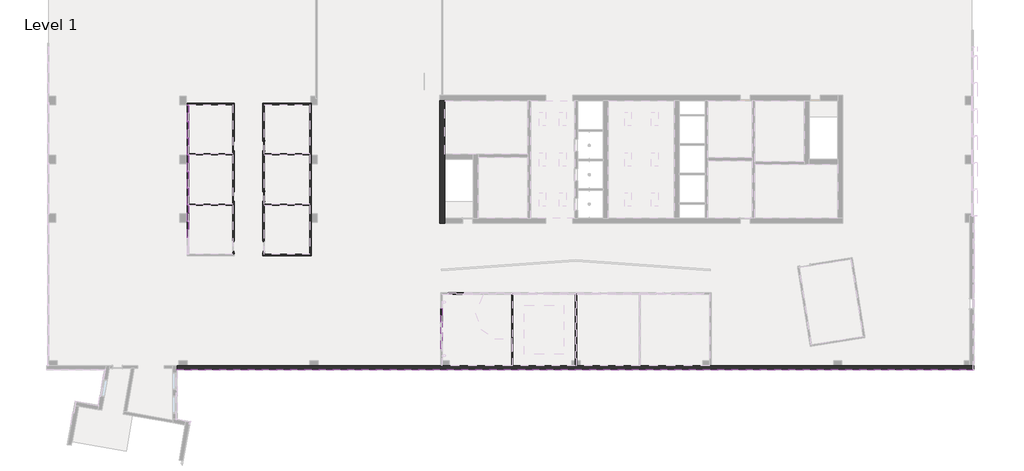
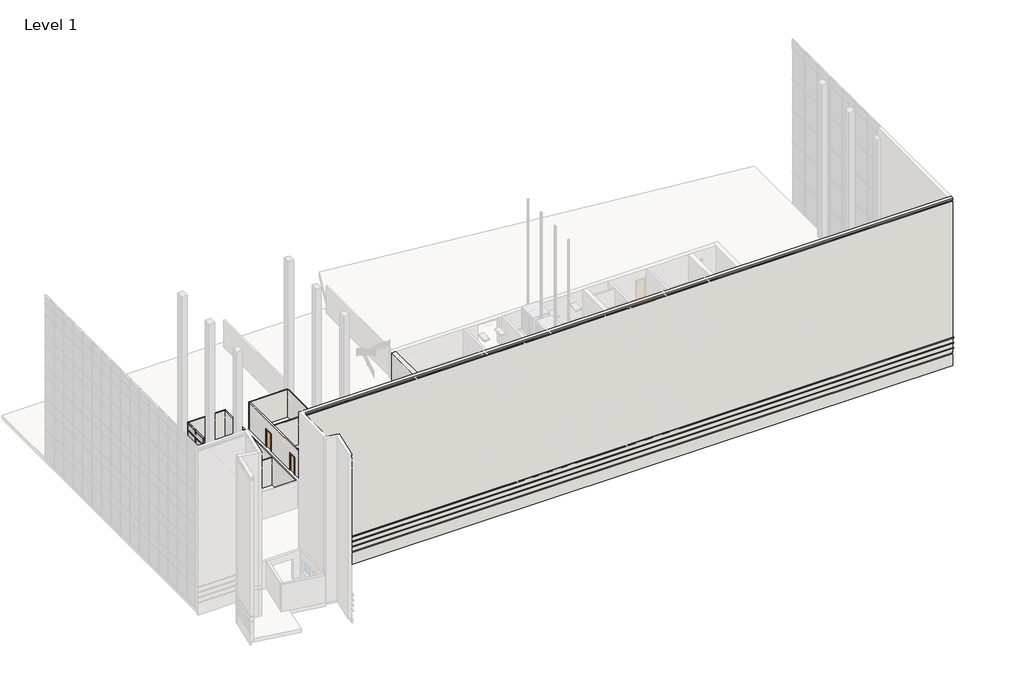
# One storey, part 6 of 23: 48 members, 17 plates, 15 walls, 4 doors, 3 proxies.
"""IFC4 building model written with IfcOpenShell, lengths in millimetres."""

from ifc_helpers import new_model, si_unit, frame, origin, origin_with_axes, place, context, project, spatial, polyline, outline, extrude, faceted_brep, transform, mapped, element, save
from components import door_82111de5, door_92889684, member_fc09b6aa, member_75074519, member_9597caa3, member_b2bde9e6, member_131a91bd, member_8e4b14e5, member_5adcf121, member_e7ed5742, member_d635bea1, member_194437a1, member_8e09d03a, member_19b6149e, member_7e386bcc, member_b540e27d, system_panel_glazed_f771dc8d, system_panel_glazed_f1d9fa5b, system_panel_glazed_1974f2ce, system_panel_solid_d74a2081, system_panel_solid_e04ca811

model = new_model("IFC4")

# Units and contexts
model_context = context("Model", 3, world=origin())
ifc_project = project(units=[si_unit("LENGTHUNIT", "METRE", prefix="MILLI")], contexts=[model_context])

# Site, building, storey
site = spatial("IfcSite", under=ifc_project)
building = spatial("IfcBuilding", under=site)
storey = spatial("IfcBuildingStorey", under=building, Name="Level 1", Elevation=0.0)

# Proxies
placement = place(None, origin())
element("IfcBuildingElementProxy", 1, Name="Reveals", at=placement, inside=storey, context=model_context, shape_type="SweptSolid", body=[
    extrude(outline(polyline([(15157.6054088, -28056.8103492), (15249.6804088, -28148.8853492), (-57009.4125003, -28148.8853492), (-57101.4875003, -28056.8103492), (15157.6054088, -28056.8103492)])), frame((0.0, 0.0, 1625.6), z_axis=(0.0, 0.0, 1.0), x_axis=(1.0, 0.0, 0.0)), (0.0, 0.0, 1.0), 67.7333333),
])
element("IfcBuildingElementProxy", 2, Name="Reveals", at=placement, inside=storey, context=model_context, shape_type="SweptSolid", body=[
    extrude(outline(polyline([(15157.6054088, -28056.8103492), (15249.6804088, -28148.8853492), (-57009.4125003, -28148.8853492), (-57101.4875003, -28056.8103492), (15157.6054088, -28056.8103492)])), frame((0.0, 0.0, 2235.2), z_axis=(0.0, 0.0, 1.0), x_axis=(1.0, 0.0, 0.0)), (0.0, 0.0, 1.0), 67.7333333),
])
element("IfcBuildingElementProxy", 3, Name="Reveals", at=placement, inside=storey, context=model_context, shape_type="SweptSolid", body=[
    extrude(outline(polyline([(15157.6054088, -28056.8103492), (15249.6804088, -28148.8853492), (-57009.4125003, -28148.8853492), (-57101.4875003, -28056.8103492), (15157.6054088, -28056.8103492)])), frame((0.0, 0.0, 2844.8), z_axis=(0.0, 0.0, 1.0), x_axis=(1.0, 0.0, 0.0)), (0.0, 0.0, 1.0), 67.7333333),
])

# Doors
door_shape = door_82111de5(model_context)
element("IfcDoor", 4, ObjectType="Single-Flush : 34\" x 80\"", at=placement, inside=storey, context=model_context, shape_type="MappedRepresentation", body=[
    mapped(door_shape, transform((-51923.5856498, -12385.0103492, 0.0), x_axis=(0.0, -1.0, 0.0), y_axis=(1.0, 0.0, 0.0), z_axis=(0.0, 0.0, 1.0))),
])
element("IfcDoor", 5, ObjectType="Single-Flush : 34\" x 80\"", at=placement, inside=storey, context=model_context, shape_type="MappedRepresentation", body=[
    mapped(door_shape, transform((-51923.5856498, -7813.0103492, 0.0), x_axis=(0.0, -1.0, 0.0), y_axis=(1.0, 0.0, 0.0), z_axis=(0.0, 0.0, 1.0))),
])
door_2_shape = door_92889684(model_context)
element("IfcDoor", 6, ObjectType="Single-Flush : 34\" x 80\"", at=placement, inside=storey, context=model_context, shape_type="MappedRepresentation", body=[
    mapped(door_2_shape, transform((-49194.8999355, -12385.0103492, 0.0), x_axis=(0.0, -1.0, 0.0), y_axis=(1.0, 0.0, 0.0), z_axis=(0.0, 0.0, 1.0))),
])
element("IfcDoor", 7, ObjectType="Single-Flush : 34\" x 80\"", at=placement, inside=storey, context=model_context, shape_type="MappedRepresentation", body=[
    mapped(door_2_shape, transform((-49194.8999355, -7813.0103492, 0.0), x_axis=(0.0, -1.0, 0.0), y_axis=(1.0, 0.0, 0.0), z_axis=(0.0, 0.0, 1.0))),
])

# Members
member_shape = member_fc09b6aa(model_context)
element("IfcMember", 8, ObjectType="Rectangular Mullion : 2.5\" x 5\" rectangular", at=placement, inside=storey, context=model_context, shape_type="MappedRepresentation", body=[
    mapped(member_shape, transform((-56063.7856498, -14635.7325714, 2413.0), x_axis=(0.0, 0.0, 1.0), y_axis=(1.0, 0.0, 0.0), z_axis=(0.0, 1.0, 0.0))),
])
element("IfcMember", 9, ObjectType="Rectangular Mullion : 2.5\" x 5\" rectangular", at=placement, inside=storey, context=model_context, shape_type="MappedRepresentation", body=[
    mapped(member_shape, transform((-56063.7856498, -13125.8436825, 2413.0), x_axis=(0.0, 0.0, 1.0), y_axis=(1.0, 0.0, 0.0), z_axis=(0.0, 1.0, 0.0))),
])
element("IfcMember", 10, ObjectType="Rectangular Mullion : 2.5\" x 5\" rectangular", at=placement, inside=storey, context=model_context, shape_type="MappedRepresentation", body=[
    mapped(member_shape, transform((-56063.7856498, -11615.9547936, 2413.0), x_axis=(0.0, 0.0, 1.0), y_axis=(1.0, 0.0, 0.0), z_axis=(0.0, 1.0, 0.0))),
])
element("IfcMember", 11, ObjectType="Rectangular Mullion : 2.5\" x 5\" rectangular", at=placement, inside=storey, context=model_context, shape_type="MappedRepresentation", body=[
    mapped(member_shape, transform((-56063.7856498, -10106.0659048, 2413.0), x_axis=(0.0, 0.0, 1.0), y_axis=(1.0, 0.0, 0.0), z_axis=(0.0, 1.0, 0.0))),
])
element("IfcMember", 12, ObjectType="Rectangular Mullion : 2.5\" x 5\" rectangular", at=placement, inside=storey, context=model_context, shape_type="MappedRepresentation", body=[
    mapped(member_shape, transform((-56063.7856498, -8596.1770159, 2413.0), x_axis=(0.0, 0.0, 1.0), y_axis=(1.0, 0.0, 0.0), z_axis=(0.0, 1.0, 0.0))),
])
element("IfcMember", 13, ObjectType="Rectangular Mullion : 2.5\" x 5\" rectangular", at=placement, inside=storey, context=model_context, shape_type="MappedRepresentation", body=[
    mapped(member_shape, transform((-56063.7856498, -7086.288127, 2413.0), x_axis=(0.0, 0.0, 1.0), y_axis=(1.0, 0.0, 0.0), z_axis=(0.0, 1.0, 0.0))),
])
element("IfcMember", 14, ObjectType="Rectangular Mullion : 2.5\" x 5\" rectangular", at=placement, inside=storey, context=model_context, shape_type="MappedRepresentation", body=[
    mapped(member_shape, transform((-56063.7856498, -5576.3992381, 2413.0), x_axis=(0.0, 0.0, 1.0), y_axis=(1.0, 0.0, 0.0), z_axis=(0.0, 1.0, 0.0))),
])
member_2_shape = member_75074519(model_context)
element("IfcMember", 15, ObjectType="Rectangular Mullion : 2.5\" x 5\" rectangular", at=placement, inside=storey, context=model_context, shape_type="MappedRepresentation", body=[
    mapped(member_2_shape, transform((-33067.7142212, -22546.5978492, 2413.0), x_axis=(0.0, 0.0, 1.0), y_axis=(1.0, 0.0, 0.0), z_axis=(0.0, 1.0, 0.0))),
])
member_3_shape = member_9597caa3(model_context)
element("IfcMember", 16, ObjectType="Rectangular Mullion : 2.5\" x 5\" rectangular", at=placement, inside=storey, context=model_context, shape_type="MappedRepresentation", body=[
    mapped(member_3_shape, transform((-56063.7856498, -14635.7325714, 38.1), x_axis=(0.0, 1.0, 0.0), y_axis=(1.0, 0.0, 0.0), z_axis=(0.0, 0.0, -1.0))),
])
element("IfcMember", 17, ObjectType="Rectangular Mullion : 2.5\" x 5\" rectangular", at=placement, inside=storey, context=model_context, shape_type="MappedRepresentation", body=[
    mapped(member_3_shape, transform((-56063.7856498, -13125.8436825, 38.1), x_axis=(0.0, 1.0, 0.0), y_axis=(1.0, 0.0, 0.0), z_axis=(0.0, 0.0, -1.0))),
])
element("IfcMember", 18, ObjectType="Rectangular Mullion : 2.5\" x 5\" rectangular", at=placement, inside=storey, context=model_context, shape_type="MappedRepresentation", body=[
    mapped(member_3_shape, transform((-56063.7856498, -11615.9547936, 38.1), x_axis=(0.0, 1.0, 0.0), y_axis=(1.0, 0.0, 0.0), z_axis=(0.0, 0.0, -1.0))),
])
element("IfcMember", 19, ObjectType="Rectangular Mullion : 2.5\" x 5\" rectangular", at=placement, inside=storey, context=model_context, shape_type="MappedRepresentation", body=[
    mapped(member_3_shape, transform((-56063.7856498, -10106.0659048, 38.1), x_axis=(0.0, 1.0, 0.0), y_axis=(1.0, 0.0, 0.0), z_axis=(0.0, 0.0, -1.0))),
])
element("IfcMember", 20, ObjectType="Rectangular Mullion : 2.5\" x 5\" rectangular", at=placement, inside=storey, context=model_context, shape_type="MappedRepresentation", body=[
    mapped(member_3_shape, transform((-56063.7856498, -8596.1770159, 38.1), x_axis=(0.0, 1.0, 0.0), y_axis=(1.0, 0.0, 0.0), z_axis=(0.0, 0.0, -1.0))),
])
element("IfcMember", 21, ObjectType="Rectangular Mullion : 2.5\" x 5\" rectangular", at=placement, inside=storey, context=model_context, shape_type="MappedRepresentation", body=[
    mapped(member_3_shape, transform((-56063.7856498, -7086.288127, 38.1), x_axis=(0.0, 1.0, 0.0), y_axis=(1.0, 0.0, 0.0), z_axis=(0.0, 0.0, -1.0))),
])
element("IfcMember", 22, ObjectType="Rectangular Mullion : 2.5\" x 5\" rectangular", at=placement, inside=storey, context=model_context, shape_type="MappedRepresentation", body=[
    mapped(member_3_shape, transform((-56063.7856498, -5576.3992381, 38.1), x_axis=(0.0, 1.0, 0.0), y_axis=(1.0, 0.0, 0.0), z_axis=(0.0, 0.0, -1.0))),
])
member_4_shape = member_b2bde9e6(model_context)
element("IfcMember", 23, ObjectType="Rectangular Mullion : 2.5\" x 5\" rectangular", at=placement, inside=storey, context=model_context, shape_type="MappedRepresentation", body=[
    mapped(member_4_shape, transform((-56063.7856498, -4066.5103492, 38.1), x_axis=(0.0, 1.0, 0.0), y_axis=(1.0, 0.0, 0.0), z_axis=(0.0, 0.0, -1.0))),
])
member_5_shape = member_131a91bd(model_context)
element("IfcMember", 24, ObjectType="Rectangular Mullion : 2.5\" x 5\" rectangular", at=placement, inside=storey, context=model_context, shape_type="MappedRepresentation", body=[
    mapped(member_5_shape, transform((-56063.7856498, -4066.5103492, 3222.625), x_axis=(0.0, 0.0, 1.0), y_axis=(1.0, 0.0, 0.0), z_axis=(0.0, 1.0, 0.0))),
])
element("IfcMember", 25, ObjectType="Rectangular Mullion : 2.5\" x 5\" rectangular", at=placement, inside=storey, context=model_context, shape_type="MappedRepresentation", body=[
    mapped(member_5_shape, transform((-56063.7856498, -14635.7325714, 3222.625), x_axis=(0.0, 0.0, 1.0), y_axis=(1.0, 0.0, 0.0), z_axis=(0.0, 1.0, 0.0))),
])
element("IfcMember", 26, ObjectType="Rectangular Mullion : 2.5\" x 5\" rectangular", at=placement, inside=storey, context=model_context, shape_type="MappedRepresentation", body=[
    mapped(member_5_shape, transform((-56063.7856498, -13125.8436825, 3222.625), x_axis=(0.0, 0.0, 1.0), y_axis=(1.0, 0.0, 0.0), z_axis=(0.0, 1.0, 0.0))),
])
element("IfcMember", 27, ObjectType="Rectangular Mullion : 2.5\" x 5\" rectangular", at=placement, inside=storey, context=model_context, shape_type="MappedRepresentation", body=[
    mapped(member_5_shape, transform((-56063.7856498, -11615.9547936, 3222.625), x_axis=(0.0, 0.0, 1.0), y_axis=(1.0, 0.0, 0.0), z_axis=(0.0, 1.0, 0.0))),
])
element("IfcMember", 28, ObjectType="Rectangular Mullion : 2.5\" x 5\" rectangular", at=placement, inside=storey, context=model_context, shape_type="MappedRepresentation", body=[
    mapped(member_5_shape, transform((-56063.7856498, -10106.0659048, 3222.625), x_axis=(0.0, 0.0, 1.0), y_axis=(1.0, 0.0, 0.0), z_axis=(0.0, 1.0, 0.0))),
])
element("IfcMember", 29, ObjectType="Rectangular Mullion : 2.5\" x 5\" rectangular", at=placement, inside=storey, context=model_context, shape_type="MappedRepresentation", body=[
    mapped(member_5_shape, transform((-56063.7856498, -8596.1770159, 3222.625), x_axis=(0.0, 0.0, 1.0), y_axis=(1.0, 0.0, 0.0), z_axis=(0.0, 1.0, 0.0))),
])
element("IfcMember", 30, ObjectType="Rectangular Mullion : 2.5\" x 5\" rectangular", at=placement, inside=storey, context=model_context, shape_type="MappedRepresentation", body=[
    mapped(member_5_shape, transform((-56063.7856498, -7086.288127, 3222.625), x_axis=(0.0, 0.0, 1.0), y_axis=(1.0, 0.0, 0.0), z_axis=(0.0, 1.0, 0.0))),
])
element("IfcMember", 31, ObjectType="Rectangular Mullion : 2.5\" x 5\" rectangular", at=placement, inside=storey, context=model_context, shape_type="MappedRepresentation", body=[
    mapped(member_5_shape, transform((-56063.7856498, -5576.3992381, 3222.625), x_axis=(0.0, 0.0, 1.0), y_axis=(1.0, 0.0, 0.0), z_axis=(0.0, 1.0, 0.0))),
])
element("IfcMember", 32, ObjectType="Rectangular Mullion : 2.5\" x 5\" rectangular", at=placement, inside=storey, context=model_context, shape_type="MappedRepresentation", body=[
    mapped(member_5_shape, transform((-56063.7856498, -14635.7325714, -25.4), x_axis=(0.0, 0.0, -1.0), y_axis=(1.0, 0.0, 0.0), z_axis=(0.0, -1.0, 0.0))),
])
element("IfcMember", 33, ObjectType="Rectangular Mullion : 2.5\" x 5\" rectangular", at=placement, inside=storey, context=model_context, shape_type="MappedRepresentation", body=[
    mapped(member_5_shape, transform((-56063.7856498, -13125.8436825, -25.4), x_axis=(0.0, 0.0, -1.0), y_axis=(1.0, 0.0, 0.0), z_axis=(0.0, -1.0, 0.0))),
])
element("IfcMember", 34, ObjectType="Rectangular Mullion : 2.5\" x 5\" rectangular", at=placement, inside=storey, context=model_context, shape_type="MappedRepresentation", body=[
    mapped(member_5_shape, transform((-56063.7856498, -11615.9547936, -25.4), x_axis=(0.0, 0.0, -1.0), y_axis=(1.0, 0.0, 0.0), z_axis=(0.0, -1.0, 0.0))),
])
element("IfcMember", 35, ObjectType="Rectangular Mullion : 2.5\" x 5\" rectangular", at=placement, inside=storey, context=model_context, shape_type="MappedRepresentation", body=[
    mapped(member_5_shape, transform((-56063.7856498, -10106.0659048, -25.4), x_axis=(0.0, 0.0, -1.0), y_axis=(1.0, 0.0, 0.0), z_axis=(0.0, -1.0, 0.0))),
])
element("IfcMember", 36, ObjectType="Rectangular Mullion : 2.5\" x 5\" rectangular", at=placement, inside=storey, context=model_context, shape_type="MappedRepresentation", body=[
    mapped(member_5_shape, transform((-56063.7856498, -8596.1770159, -25.4), x_axis=(0.0, 0.0, -1.0), y_axis=(1.0, 0.0, 0.0), z_axis=(0.0, -1.0, 0.0))),
])
element("IfcMember", 37, ObjectType="Rectangular Mullion : 2.5\" x 5\" rectangular", at=placement, inside=storey, context=model_context, shape_type="MappedRepresentation", body=[
    mapped(member_5_shape, transform((-56063.7856498, -7086.288127, -25.4), x_axis=(0.0, 0.0, -1.0), y_axis=(1.0, 0.0, 0.0), z_axis=(0.0, -1.0, 0.0))),
])
element("IfcMember", 38, ObjectType="Rectangular Mullion : 2.5\" x 5\" rectangular", at=placement, inside=storey, context=model_context, shape_type="MappedRepresentation", body=[
    mapped(member_5_shape, transform((-56063.7856498, -5576.3992381, -25.4), x_axis=(0.0, 0.0, -1.0), y_axis=(1.0, 0.0, 0.0), z_axis=(0.0, -1.0, 0.0))),
])
member_6_shape = member_8e4b14e5(model_context)
element("IfcMember", 39, ObjectType="Rectangular Mullion : 2.5\" x 5\" rectangular", at=placement, inside=storey, context=model_context, shape_type="MappedRepresentation", body=[
    mapped(member_6_shape, transform((-56063.7856498, -4130.0103492, 2413.0), x_axis=(0.0, 0.0, 1.0), y_axis=(1.0, 0.0, 0.0), z_axis=(0.0, 1.0, 0.0))),
])
member_7_shape = member_5adcf121(model_context)
element("IfcMember", 40, ObjectType="Rectangular Mullion : 2.5\" x 5\" rectangular", at=placement, inside=storey, context=model_context, shape_type="MappedRepresentation", body=[
    mapped(member_7_shape, transform((-33067.7142212, -24781.7978492, 38.1), x_axis=(0.0, 1.0, 0.0), y_axis=(1.0, 0.0, 0.0), z_axis=(0.0, 0.0, -1.0))),
])
element("IfcMember", 41, ObjectType="Rectangular Mullion : 2.5\" x 5\" rectangular", at=placement, inside=storey, context=model_context, shape_type="MappedRepresentation", body=[
    mapped(member_7_shape, transform((-33067.7142212, -23765.7978492, 38.1), x_axis=(0.0, 1.0, 0.0), y_axis=(1.0, 0.0, 0.0), z_axis=(0.0, 0.0, -1.0))),
])
member_8_shape = member_e7ed5742(model_context)
element("IfcMember", 42, ObjectType="Rectangular Mullion : 2.5\" x 5\" rectangular", at=placement, inside=storey, context=model_context, shape_type="MappedRepresentation", body=[
    mapped(member_8_shape, transform((-33067.7142212, -22546.5978492, 38.1), x_axis=(0.0, 1.0, 0.0), y_axis=(1.0, 0.0, 0.0), z_axis=(0.0, 0.0, -1.0))),
])
element("IfcMember", 43, ObjectType="Rectangular Mullion : 2.5\" x 5\" rectangular", at=placement, inside=storey, context=model_context, shape_type="MappedRepresentation", body=[
    mapped(member_8_shape, transform((-32436.3427926, -21198.8103492, 2349.5), x_axis=(-1.0, 0.0, 0.0), y_axis=(0.0, -1.0, 0.0), z_axis=(0.0, 0.0, 1.0))),
])
member_9_shape = member_d635bea1(model_context)
element("IfcMember", 44, ObjectType="Rectangular Mullion : 2.5\" x 5\" rectangular", at=placement, inside=storey, context=model_context, shape_type="MappedRepresentation", body=[
    mapped(member_9_shape, transform((-33067.7142212, -23797.5478492, -25.4), x_axis=(0.0, 0.0, -1.0), y_axis=(1.0, 0.0, 0.0), z_axis=(0.0, -1.0, 0.0))),
])
member_10_shape = member_194437a1(model_context)
element("IfcMember", 45, ObjectType="Rectangular Mullion : 2.5\" x 5\" rectangular", at=placement, inside=storey, context=model_context, shape_type="MappedRepresentation", body=[
    mapped(member_10_shape, transform((-33067.7142212, -24781.7978492, 2413.0), x_axis=(0.0, 0.0, 1.0), y_axis=(1.0, 0.0, 0.0), z_axis=(0.0, 1.0, 0.0))),
])
member_11_shape = member_8e09d03a(model_context)
element("IfcMember", 46, ObjectType="Rectangular Mullion : 2.5\" x 5\" rectangular", at=placement, inside=storey, context=model_context, shape_type="MappedRepresentation", body=[
    mapped(member_11_shape, transform((-33067.7142212, -23765.7978492, 2413.0), x_axis=(0.0, 0.0, 1.0), y_axis=(1.0, 0.0, 0.0), z_axis=(0.0, 1.0, 0.0))),
])
member_12_shape = member_19b6149e(model_context)
element("IfcMember", 47, ObjectType="Rectangular Mullion : 2.5\" x 5\" rectangular", at=placement, inside=storey, context=model_context, shape_type="MappedRepresentation", body=[
    mapped(member_12_shape, transform((-32436.3427926, -21198.8103492, -25.4), x_axis=(0.0, 0.0, -1.0), y_axis=(0.0, -1.0, 0.0), z_axis=(-1.0, 0.0, 0.0))),
])
member_13_shape = member_7e386bcc(model_context)
element("IfcMember", 48, ObjectType="Rectangular Mullion : 2.5\" x 5\" rectangular", at=placement, inside=storey, context=model_context, shape_type="MappedRepresentation", body=[
    mapped(member_13_shape, transform((-56063.7856498, -14635.7325714, 2444.75), x_axis=(0.0, 1.0, 0.0), y_axis=(1.0, 0.0, 0.0), z_axis=(0.0, 0.0, -1.0))),
])
element("IfcMember", 49, ObjectType="Rectangular Mullion : 2.5\" x 5\" rectangular", at=placement, inside=storey, context=model_context, shape_type="MappedRepresentation", body=[
    mapped(member_13_shape, transform((-56063.7856498, -13125.8436825, 2444.75), x_axis=(0.0, 1.0, 0.0), y_axis=(1.0, 0.0, 0.0), z_axis=(0.0, 0.0, -1.0))),
])
element("IfcMember", 50, ObjectType="Rectangular Mullion : 2.5\" x 5\" rectangular", at=placement, inside=storey, context=model_context, shape_type="MappedRepresentation", body=[
    mapped(member_13_shape, transform((-56063.7856498, -11615.9547936, 2444.75), x_axis=(0.0, 1.0, 0.0), y_axis=(1.0, 0.0, 0.0), z_axis=(0.0, 0.0, -1.0))),
])
element("IfcMember", 51, ObjectType="Rectangular Mullion : 2.5\" x 5\" rectangular", at=placement, inside=storey, context=model_context, shape_type="MappedRepresentation", body=[
    mapped(member_13_shape, transform((-56063.7856498, -10106.0659048, 2444.75), x_axis=(0.0, 1.0, 0.0), y_axis=(1.0, 0.0, 0.0), z_axis=(0.0, 0.0, -1.0))),
])
element("IfcMember", 52, ObjectType="Rectangular Mullion : 2.5\" x 5\" rectangular", at=placement, inside=storey, context=model_context, shape_type="MappedRepresentation", body=[
    mapped(member_13_shape, transform((-56063.7856498, -8596.1770159, 2444.75), x_axis=(0.0, 1.0, 0.0), y_axis=(1.0, 0.0, 0.0), z_axis=(0.0, 0.0, -1.0))),
])
element("IfcMember", 53, ObjectType="Rectangular Mullion : 2.5\" x 5\" rectangular", at=placement, inside=storey, context=model_context, shape_type="MappedRepresentation", body=[
    mapped(member_13_shape, transform((-56063.7856498, -7086.288127, 2444.75), x_axis=(0.0, 1.0, 0.0), y_axis=(1.0, 0.0, 0.0), z_axis=(0.0, 0.0, -1.0))),
])
element("IfcMember", 54, ObjectType="Rectangular Mullion : 2.5\" x 5\" rectangular", at=placement, inside=storey, context=model_context, shape_type="MappedRepresentation", body=[
    mapped(member_13_shape, transform((-56063.7856498, -5576.3992381, 2444.75), x_axis=(0.0, 1.0, 0.0), y_axis=(1.0, 0.0, 0.0), z_axis=(0.0, 0.0, -1.0))),
])
member_14_shape = member_b540e27d(model_context)
element("IfcMember", 55, ObjectType="Rectangular Mullion : 2.5\" x 5\" rectangular", at=placement, inside=storey, context=model_context, shape_type="MappedRepresentation", body=[
    mapped(member_14_shape, transform((-56063.7856498, -4066.5103492, 2413.0), x_axis=(0.0, 1.0, 0.0), y_axis=(1.0, 0.0, 0.0), z_axis=(0.0, 0.0, -1.0))),
])

# Plates
system_panel_glazed_shape = system_panel_glazed_f771dc8d(model_context)
element("IfcPlate", 56, ObjectType="System Panel : Glazed", at=placement, inside=storey, context=model_context, shape_type="MappedRepresentation", body=[
    mapped(system_panel_glazed_shape, transform((-56063.7856498, -4837.3297936, 38.1), x_axis=(0.0, 1.0, 0.0), y_axis=(-1.0, 0.0, 0.0), z_axis=(0.0, 0.0, 1.0))),
])
system_panel_glazed_2_shape = system_panel_glazed_f1d9fa5b(model_context)
element("IfcPlate", 57, ObjectType="System Panel : Glazed", at=placement, inside=storey, context=model_context, shape_type="MappedRepresentation", body=[
    mapped(system_panel_glazed_2_shape, transform((-56063.7856498, -15390.6770159, 38.1), x_axis=(0.0, 1.0, 0.0), y_axis=(-1.0, 0.0, 0.0), z_axis=(0.0, 0.0, 1.0))),
])
element("IfcPlate", 58, ObjectType="System Panel : Glazed", at=placement, inside=storey, context=model_context, shape_type="MappedRepresentation", body=[
    mapped(system_panel_glazed_2_shape, transform((-56063.7856498, -13880.788127, 38.1), x_axis=(0.0, 1.0, 0.0), y_axis=(-1.0, 0.0, 0.0), z_axis=(0.0, 0.0, 1.0))),
])
element("IfcPlate", 59, ObjectType="System Panel : Glazed", at=placement, inside=storey, context=model_context, shape_type="MappedRepresentation", body=[
    mapped(system_panel_glazed_2_shape, transform((-56063.7856498, -12370.8992381, 38.1), x_axis=(0.0, 1.0, 0.0), y_axis=(-1.0, 0.0, 0.0), z_axis=(0.0, 0.0, 1.0))),
])
element("IfcPlate", 60, ObjectType="System Panel : Glazed", at=placement, inside=storey, context=model_context, shape_type="MappedRepresentation", body=[
    mapped(system_panel_glazed_2_shape, transform((-56063.7856498, -10861.0103492, 38.1), x_axis=(0.0, 1.0, 0.0), y_axis=(-1.0, 0.0, 0.0), z_axis=(0.0, 0.0, 1.0))),
])
element("IfcPlate", 61, ObjectType="System Panel : Glazed", at=placement, inside=storey, context=model_context, shape_type="MappedRepresentation", body=[
    mapped(system_panel_glazed_2_shape, transform((-56063.7856498, -9351.1214603, 38.1), x_axis=(0.0, 1.0, 0.0), y_axis=(-1.0, 0.0, 0.0), z_axis=(0.0, 0.0, 1.0))),
])
element("IfcPlate", 62, ObjectType="System Panel : Glazed", at=placement, inside=storey, context=model_context, shape_type="MappedRepresentation", body=[
    mapped(system_panel_glazed_2_shape, transform((-56063.7856498, -7841.2325714, 38.1), x_axis=(0.0, 1.0, 0.0), y_axis=(-1.0, 0.0, 0.0), z_axis=(0.0, 0.0, 1.0))),
])
element("IfcPlate", 63, ObjectType="System Panel : Glazed", at=placement, inside=storey, context=model_context, shape_type="MappedRepresentation", body=[
    mapped(system_panel_glazed_2_shape, transform((-56063.7856498, -6331.3436825, 38.1), x_axis=(0.0, 1.0, 0.0), y_axis=(-1.0, 0.0, 0.0), z_axis=(0.0, 0.0, 1.0))),
])
system_panel_glazed_3_shape = system_panel_glazed_1974f2ce(model_context)
element("IfcPlate", 64, ObjectType="System Panel : Glazed", at=placement, inside=storey, context=model_context, shape_type="MappedRepresentation", body=[
    mapped(system_panel_glazed_3_shape, transform((-33067.7142212, -23172.0728492, 38.1), x_axis=(0.0, 1.0, 0.0), y_axis=(-1.0, 0.0, 0.0), z_axis=(0.0, 0.0, 1.0))),
])
system_panel_solid_shape = system_panel_solid_d74a2081(model_context)
element("IfcPlate", 65, ObjectType="System Panel : Solid", at=placement, inside=storey, context=model_context, shape_type="MappedRepresentation", body=[
    mapped(system_panel_solid_shape, transform((-56063.7856498, -4837.3297936, 2444.75), x_axis=(0.0, 1.0, 0.0), y_axis=(-1.0, 0.0, 0.0), z_axis=(0.0, 0.0, 1.0))),
])
system_panel_solid_2_shape = system_panel_solid_e04ca811(model_context)
element("IfcPlate", 66, ObjectType="System Panel : Solid", at=placement, inside=storey, context=model_context, shape_type="MappedRepresentation", body=[
    mapped(system_panel_solid_2_shape, transform((-56063.7856498, -15390.6770159, 2444.75), x_axis=(0.0, 1.0, 0.0), y_axis=(-1.0, 0.0, 0.0), z_axis=(0.0, 0.0, 1.0))),
])
element("IfcPlate", 67, ObjectType="System Panel : Solid", at=placement, inside=storey, context=model_context, shape_type="MappedRepresentation", body=[
    mapped(system_panel_solid_2_shape, transform((-56063.7856498, -13880.788127, 2444.75), x_axis=(0.0, 1.0, 0.0), y_axis=(-1.0, 0.0, 0.0), z_axis=(0.0, 0.0, 1.0))),
])
element("IfcPlate", 68, ObjectType="System Panel : Solid", at=placement, inside=storey, context=model_context, shape_type="MappedRepresentation", body=[
    mapped(system_panel_solid_2_shape, transform((-56063.7856498, -12370.8992381, 2444.75), x_axis=(0.0, 1.0, 0.0), y_axis=(-1.0, 0.0, 0.0), z_axis=(0.0, 0.0, 1.0))),
])
element("IfcPlate", 69, ObjectType="System Panel : Solid", at=placement, inside=storey, context=model_context, shape_type="MappedRepresentation", body=[
    mapped(system_panel_solid_2_shape, transform((-56063.7856498, -10861.0103492, 2444.75), x_axis=(0.0, 1.0, 0.0), y_axis=(-1.0, 0.0, 0.0), z_axis=(0.0, 0.0, 1.0))),
])
element("IfcPlate", 70, ObjectType="System Panel : Solid", at=placement, inside=storey, context=model_context, shape_type="MappedRepresentation", body=[
    mapped(system_panel_solid_2_shape, transform((-56063.7856498, -9351.1214603, 2444.75), x_axis=(0.0, 1.0, 0.0), y_axis=(-1.0, 0.0, 0.0), z_axis=(0.0, 0.0, 1.0))),
])
element("IfcPlate", 71, ObjectType="System Panel : Solid", at=placement, inside=storey, context=model_context, shape_type="MappedRepresentation", body=[
    mapped(system_panel_solid_2_shape, transform((-56063.7856498, -7841.2325714, 2444.75), x_axis=(0.0, 1.0, 0.0), y_axis=(-1.0, 0.0, 0.0), z_axis=(0.0, 0.0, 1.0))),
])
element("IfcPlate", 72, ObjectType="System Panel : Solid", at=placement, inside=storey, context=model_context, shape_type="MappedRepresentation", body=[
    mapped(system_panel_solid_2_shape, transform((-56063.7856498, -6331.3436825, 2444.75), x_axis=(0.0, 1.0, 0.0), y_axis=(-1.0, 0.0, 0.0), z_axis=(0.0, 0.0, 1.0))),
])

# Walls
element("IfcWall", 73, ObjectType="Core-shaft 18\" Concrete", at=placement, inside=storey, context=model_context, shape_type="Brep", body=[
    faceted_brep([(-32750.2142212, -14823.4103492, 0.0), (-32750.2142212, -14366.2103492, 0.0), (-32750.2142212, -9032.2103492, 0.0), (-32750.2142212, -8575.0103492, 0.0), (-32750.2142212, -3698.2103492, 0.0), (-32750.2142212, -3698.2103492, 3222.625), (-32750.2142212, -8575.0103492, 3222.625), (-32750.2142212, -9032.2103492, 3222.625), (-32750.2142212, -14366.2103492, 3222.625), (-32750.2142212, -14823.4103492, 3222.625), (-33207.4142212, -14823.4103492, 0.0), (-33207.4142212, -14823.4103492, 3222.625), (-33207.4142212, -3698.2103492, 3222.625), (-33207.4142212, -3698.2103492, 0.0)], [[[0, 1, 2, 3, 4, 5, 6, 7, 8, 9]], [[10, 11, 12, 13]], [[4, 3, 2, 1, 0, 10, 13]], [[0, 9, 11, 10]], [[5, 4, 13, 12]], [[9, 8, 7, 6, 5, 12, 11]]]),
])
element("IfcWall", 74, ObjectType="Exterior - Brick and CMU on MTL. Stud", at=placement, inside=storey, context=model_context, shape_type="Brep", body=[
    faceted_brep([(15183.0054088, -27729.7853492, 0.0), (14830.5804088, -27729.7853492, 0.0), (-8623.8427926, -27729.7853492, 0.0), (-8750.8427926, -27729.7853492, 0.0), (-15018.2927926, -27729.7853492, 0.0), (-15145.2927926, -27729.7853492, 0.0), (-20814.0285069, -27729.7853492, 0.0), (-20941.0285069, -27729.7853492, 0.0), (-26587.9927926, -27729.7853492, 0.0), (-26714.9927926, -27729.7853492, 0.0), (-33004.2142212, -27729.7853492, 0.0), (-33131.2142212, -27729.7853492, 0.0), (-57076.0875003, -27729.7853492, 0.0), (-57076.0875003, -27729.7853492, 3222.625), (-33131.2142212, -27729.7853492, 3222.625), (-33004.2142212, -27729.7853492, 3222.625), (-26714.9927926, -27729.7853492, 3222.625), (-26587.9927926, -27729.7853492, 3222.625), (-20941.0285069, -27729.7853492, 3222.625), (-20814.0285069, -27729.7853492, 3222.625), (-15145.2927926, -27729.7853492, 3222.625), (-15018.2927926, -27729.7853492, 3222.625), (-8750.8427926, -27729.7853492, 3222.625), (-8623.8427926, -27729.7853492, 3222.625), (14830.5804088, -27729.7853492, 3222.625), (14830.5804088, -27729.7853492, 3657.6), (-57076.0875003, -27729.7853492, 3657.6), (-57076.0875003, -27729.7853492, 19304.0), (14830.5804088, -27729.7853492, 19304.0), (15183.0054088, -27729.7853492, 19304.0), (15183.0054088, -27729.7853492, 19100.8), (15090.9304088, -27729.7853492, 19100.8), (15090.9304088, -27729.7853492, 18897.6), (15183.0054088, -27729.7853492, 18897.6), (15183.0054088, -27729.7853492, 2912.5333333), (15157.6054088, -27729.7853492, 2912.5333333), (15157.6054088, -27729.7853492, 2844.8), (15183.0054088, -27729.7853492, 2844.8), (15183.0054088, -27729.7853492, 2302.9333333), (15157.6054088, -27729.7853492, 2302.9333333), (15157.6054088, -27729.7853492, 2235.2), (15183.0054088, -27729.7853492, 2235.2), (15183.0054088, -27729.7853492, 1693.3333333), (15157.6054088, -27729.7853492, 1693.3333333), (15157.6054088, -27729.7853492, 1625.6), (15183.0054088, -27729.7853492, 1625.6), (15183.0054088, -27729.7853492, 1085.85), (15090.9304088, -27729.7853492, 1085.85), (15090.9304088, -27729.7853492, 1016.0), (15183.0054088, -27729.7853492, 1016.0), (15183.0054088, -28082.2103492, 19304.0), (-57076.0875003, -28082.2103492, 19304.0), (-57076.0875003, -28082.2103492, 19100.8), (15183.0054088, -28082.2103492, 19100.8), (-57076.0875003, -28082.2103492, -406.4), (15183.0054088, -28082.2103492, -406.4), (15183.0054088, -28082.2103492, 1016.0), (-57076.0875003, -28082.2103492, 1016.0), (-57076.0875003, -28082.2103492, 1693.3333333), (15183.0054088, -28082.2103492, 1693.3333333), (15183.0054088, -28082.2103492, 2235.2), (-57076.0875003, -28082.2103492, 2235.2), (15183.0054088, -28082.2103492, 1625.6), (-57076.0875003, -28082.2103492, 1625.6), (-57076.0875003, -28082.2103492, 1085.85), (15183.0054088, -28082.2103492, 1085.85), (-57076.0875003, -28082.2103492, 2302.9333333), (15183.0054088, -28082.2103492, 2302.9333333), (15183.0054088, -28082.2103492, 2844.8), (-57076.0875003, -28082.2103492, 2844.8), (-57076.0875003, -28082.2103492, 2912.5333333), (15183.0054088, -28082.2103492, 2912.5333333), (15183.0054088, -28082.2103492, 18897.6), (-57076.0875003, -28082.2103492, 18897.6), (15183.0054088, -27990.1353492, 0.0), (15090.9304088, -27990.1353492, 0.0), (-57076.0875003, -27990.1353492, 0.0), (15183.0054088, -27990.1353492, -406.4), (15090.9304088, -27990.1353492, -406.4), (-57076.0875003, -27990.1353492, -406.4), (15157.6054088, -28056.8103492, 1693.3333333), (-57076.0875003, -28056.8103492, 1693.3333333), (15157.6054088, -28056.8103492, 1625.6), (-57076.0875003, -28056.8103492, 1625.6), (15157.6054088, -28056.8103492, 2302.9333333), (-57076.0875003, -28056.8103492, 2302.9333333), (15157.6054088, -28056.8103492, 2235.2), (-57076.0875003, -28056.8103492, 2235.2), (15157.6054088, -28056.8103492, 2912.5333333), (-57076.0875003, -28056.8103492, 2912.5333333), (15157.6054088, -28056.8103492, 2844.8), (-57076.0875003, -28056.8103492, 2844.8), (15090.9304088, -27990.1353492, 1085.85), (-57076.0875003, -27990.1353492, 1085.85), (15090.9304088, -27990.1353492, 1016.0), (-57076.0875003, -27990.1353492, 1016.0), (15090.9304088, -27990.1353492, 18897.6), (-57076.0875003, -27990.1353492, 18897.6), (15090.9304088, -27990.1353492, 19100.8), (-57076.0875003, -27990.1353492, 19100.8), (-57076.0875003, -27735.220667, 3657.6), (-57076.0875003, -27735.220667, 3222.625), (14830.5804088, -27735.220667, 3222.625), (14830.5804088, -27735.220667, 3657.6)], [[[0, 1, 2, 3, 4, 5, 6, 7, 8, 9, 10, 11, 12, 13, 14, 15, 16, 17, 18, 19, 20, 21, 22, 23, 24, 25, 26, 27, 28, 29, 30, 31, 32, 33, 34, 35, 36, 37, 38, 39, 40, 41, 42, 43, 44, 45, 46, 47, 48, 49]], [[50, 51, 52, 53]], [[54, 55, 56, 57]], [[58, 59, 60, 61]], [[62, 63, 64, 65]], [[66, 67, 68, 69]], [[70, 71, 72, 73]], [[29, 28, 27, 51, 50]], [[12, 11, 10, 9, 8, 7, 6, 5, 4, 3, 2, 1, 0, 74, 75, 76]], [[76, 75, 74, 77, 78, 79]], [[80, 43, 42, 59, 58, 81]], [[44, 82, 83, 63, 62, 45]], [[80, 82, 44, 43]], [[82, 80, 81, 83]], [[84, 39, 38, 67, 66, 85]], [[40, 86, 87, 61, 60, 41]], [[84, 86, 40, 39]], [[86, 84, 85, 87]], [[88, 35, 34, 71, 70, 89]], [[36, 90, 91, 69, 68, 37]], [[88, 90, 36, 35]], [[90, 88, 89, 91]], [[92, 47, 46, 65, 64, 93]], [[48, 94, 95, 57, 56, 49]], [[92, 94, 48, 47]], [[94, 92, 93, 95]], [[32, 96, 97, 73, 72, 33]], [[98, 96, 32, 31]], [[98, 31, 30, 53, 52, 99]], [[96, 98, 99, 97]], [[51, 27, 26, 100, 101, 13, 12, 76, 79, 54, 57, 95, 93, 64, 63, 83, 81, 58, 61, 87, 85, 66, 69, 91, 89, 70, 73, 97, 99, 52]], [[29, 50, 53, 30]], [[59, 42, 41, 60]], [[45, 62, 65, 46]], [[67, 38, 37, 68]], [[71, 34, 33, 72]], [[74, 0, 49, 56, 55, 77]], [[55, 54, 79, 78, 77]], [[101, 102, 24, 23, 22, 21, 20, 19, 18, 17, 16, 15, 14, 13]], [[25, 103, 100, 26]], [[103, 102, 101, 100]], [[102, 103, 25, 24]]]),
])
element("IfcWall", 75, ObjectType="Interior - Generic - 5\"", at=placement, inside=storey, context=model_context, shape_type="SweptSolid", body=[
    extrude(outline(polyline([(-20814.0285069, -21262.3103492), (-20814.0285069, -27729.7853492), (-20941.0285069, -27729.7853492), (-20941.0285069, -21262.3103492), (-20814.0285069, -21262.3103492)])), origin_with_axes(), (0.0, 0.0, 1.0), 3222.625),
])
element("IfcWall", 76, ObjectType="Interior - Generic - 5\"", at=placement, inside=storey, context=model_context, shape_type="Brep", body=[
    faceted_brep([(-44864.1999355, -3939.5103492, 0.0), (-49258.3999355, -3939.5103492, 0.0), (-49258.3999355, -3939.5103492, 3222.625), (-44864.1999355, -3939.5103492, 3222.625), (-44864.1999355, -4066.5103492, 0.0), (-44864.1999355, -4066.5103492, 3222.625), (-44991.1999355, -4066.5103492, 3222.625), (-49131.3999355, -4066.5103492, 3222.625), (-49258.3999355, -4066.5103492, 3222.625), (-49258.3999355, -4066.5103492, 0.0), (-49131.3999355, -4066.5103492, 0.0), (-44991.1999355, -4066.5103492, 0.0)], [[[0, 1, 2, 3]], [[4, 5, 6, 7, 8, 9, 10, 11]], [[1, 0, 4, 11, 10, 9]], [[0, 3, 5, 4]], [[2, 1, 9, 8]], [[3, 2, 8, 7, 6, 5]]]),
])
element("IfcWall", 77, ObjectType="Interior - Generic - 5\"", at=placement, inside=storey, context=model_context, shape_type="Brep", body=[
    faceted_brep([(-44864.1999355, -17782.5103492, 0.0), (-44864.1999355, -4066.5103492, 0.0), (-44864.1999355, -4066.5103492, 3222.625), (-44864.1999355, -17782.5103492, 3222.625), (-44991.1999355, -17782.5103492, 0.0), (-44991.1999355, -17782.5103492, 3222.625), (-44991.1999355, -17655.5103492, 3222.625), (-44991.1999355, -13210.5103492, 3222.625), (-44991.1999355, -13083.5103492, 3222.625), (-44991.1999355, -8638.5103492, 3222.625), (-44991.1999355, -8511.5103492, 3222.625), (-44991.1999355, -4066.5103492, 3222.625), (-44991.1999355, -4066.5103492, 0.0), (-44991.1999355, -8511.5103492, 0.0), (-44991.1999355, -8638.5103492, 0.0), (-44991.1999355, -13083.5103492, 0.0), (-44991.1999355, -13210.5103492, 0.0), (-44991.1999355, -17655.5103492, 0.0)], [[[0, 1, 2, 3]], [[4, 5, 6, 7, 8, 9, 10, 11, 12, 13, 14, 15, 16, 17]], [[1, 0, 4, 17, 16, 15, 14, 13, 12]], [[0, 3, 5, 4]], [[2, 1, 12, 11]], [[3, 2, 11, 10, 9, 8, 7, 6, 5]]]),
])
element("IfcWall", 78, ObjectType="Interior - Generic - 5\"", at=placement, inside=storey, context=model_context, shape_type="SweptSolid", body=[
    extrude(outline(polyline([(-56127.2856498, -3939.5103492), (-56000.2856498, -3939.5103492), (-56000.2856498, -4066.5103492), (-56127.2856498, -4066.5103492), (-56127.2856498, -3939.5103492)])), origin_with_axes(), (0.0, 0.0, 1.0), 3222.625),
])
element("IfcWall", 79, ObjectType="Interior - Generic - 5\"", at=placement, inside=storey, context=model_context, shape_type="Brep", body=[
    faceted_brep([(-49131.3999355, -11953.2103492, 0.0), (-49131.3999355, -8638.5103492, 0.0), (-49131.3999355, -8511.5103492, 0.0), (-49131.3999355, -8244.8103492, 0.0), (-49131.3999355, -8244.8103492, 2032.0), (-49131.3999355, -7381.2103492, 2032.0), (-49131.3999355, -7381.2103492, 0.0), (-49131.3999355, -4066.5103492, 0.0), (-49131.3999355, -4066.5103492, 3222.625), (-49131.3999355, -8511.5103492, 3222.625), (-49131.3999355, -8638.5103492, 3222.625), (-49131.3999355, -13083.5103492, 3222.625), (-49131.3999355, -13210.5103492, 3222.625), (-49131.3999355, -17655.5103492, 3222.625), (-49131.3999355, -17655.5103492, 0.0), (-49131.3999355, -17388.8103492, 0.0), (-49131.3999355, -17388.8103492, 2032.0), (-49131.3999355, -16525.2103492, 2032.0), (-49131.3999355, -16525.2103492, 0.0), (-49131.3999355, -13210.5103492, 0.0), (-49131.3999355, -13083.5103492, 0.0), (-49131.3999355, -12816.8103492, 0.0), (-49131.3999355, -12816.8103492, 2032.0), (-49131.3999355, -11953.2103492, 2032.0), (-49258.3999355, -8244.8103492, 2032.0), (-49258.3999355, -8244.8103492, 0.0), (-49258.3999355, -11953.2103492, 0.0), (-49258.3999355, -11953.2103492, 2032.0), (-49258.3999355, -12816.8103492, 2032.0), (-49258.3999355, -12816.8103492, 0.0), (-49258.3999355, -16525.2103492, 0.0), (-49258.3999355, -16525.2103492, 2032.0), (-49258.3999355, -17388.8103492, 2032.0), (-49258.3999355, -17388.8103492, 0.0), (-49258.3999355, -17655.5103492, 0.0), (-49258.3999355, -17655.5103492, 3222.625), (-49258.3999355, -4066.5103492, 3222.625), (-49258.3999355, -4066.5103492, 0.0), (-49258.3999355, -7381.2103492, 0.0), (-49258.3999355, -7381.2103492, 2032.0)], [[[0, 1, 2, 3, 4, 5, 6, 7, 8, 9, 10, 11, 12, 13, 14, 15, 16, 17, 18, 19, 20, 21, 22, 23]], [[24, 25, 26, 27, 28, 29, 30, 31, 32, 33, 34, 35, 36, 37, 38, 39]], [[34, 33, 15, 14]], [[30, 29, 21, 20, 19, 18]], [[38, 37, 7, 6]], [[26, 25, 3, 2, 1, 0]], [[8, 7, 37, 36]], [[14, 13, 35, 34]], [[16, 15, 33, 32]], [[17, 16, 32, 31]], [[18, 17, 31, 30]], [[22, 21, 29, 28]], [[23, 22, 28, 27]], [[0, 23, 27, 26]], [[4, 3, 25, 24]], [[5, 4, 24, 39]], [[6, 5, 39, 38]], [[13, 12, 11, 10, 9, 8, 36, 35]]]),
])
element("IfcWall", 80, ObjectType="Interior - Generic - 5\"", at=placement, inside=storey, context=model_context, shape_type="Brep", body=[
    faceted_brep([(-51987.0856498, -8244.8103492, 2032.0), (-51987.0856498, -8244.8103492, 0.0), (-51987.0856498, -8511.5103492, 0.0), (-51987.0856498, -8638.5103492, 0.0), (-51987.0856498, -11953.2103492, 0.0), (-51987.0856498, -11953.2103492, 2032.0), (-51987.0856498, -12816.8103492, 2032.0), (-51987.0856498, -12816.8103492, 0.0), (-51987.0856498, -13083.5103492, 0.0), (-51987.0856498, -13210.5103492, 0.0), (-51987.0856498, -16525.2103492, 0.0), (-51987.0856498, -16525.2103492, 2032.0), (-51987.0856498, -17388.8103492, 2032.0), (-51987.0856498, -17388.8103492, 0.0), (-51987.0856498, -17655.5103492, 0.0), (-51987.0856498, -17655.5103492, 3222.625), (-51987.0856498, -13210.5103492, 3222.625), (-51987.0856498, -13083.5103492, 3222.625), (-51987.0856498, -8638.5103492, 3222.625), (-51987.0856498, -8511.5103492, 3222.625), (-51987.0856498, -4066.5103492, 3222.625), (-51987.0856498, -4066.5103492, 0.0), (-51987.0856498, -7381.2103492, 0.0), (-51987.0856498, -7381.2103492, 2032.0), (-51860.0856498, -11953.2103492, 0.0), (-51860.0856498, -8244.8103492, 0.0), (-51860.0856498, -8244.8103492, 2032.0), (-51860.0856498, -7381.2103492, 2032.0), (-51860.0856498, -7381.2103492, 0.0), (-51860.0856498, -4066.5103492, 0.0), (-51860.0856498, -4066.5103492, 3222.625), (-51860.0856498, -17655.5103492, 3222.625), (-51860.0856498, -17655.5103492, 0.0), (-51860.0856498, -17388.8103492, 0.0), (-51860.0856498, -17388.8103492, 2032.0), (-51860.0856498, -16525.2103492, 2032.0), (-51860.0856498, -16525.2103492, 0.0), (-51860.0856498, -12816.8103492, 0.0), (-51860.0856498, -12816.8103492, 2032.0), (-51860.0856498, -11953.2103492, 2032.0)], [[[0, 1, 2, 3, 4, 5, 6, 7, 8, 9, 10, 11, 12, 13, 14, 15, 16, 17, 18, 19, 20, 21, 22, 23]], [[24, 25, 26, 27, 28, 29, 30, 31, 32, 33, 34, 35, 36, 37, 38, 39]], [[14, 13, 33, 32]], [[10, 9, 8, 7, 37, 36]], [[22, 21, 29, 28]], [[4, 3, 2, 1, 25, 24]], [[21, 20, 30, 29]], [[15, 14, 32, 31]], [[34, 33, 13, 12]], [[35, 34, 12, 11]], [[36, 35, 11, 10]], [[38, 37, 7, 6]], [[39, 38, 6, 5]], [[24, 39, 5, 4]], [[26, 25, 1, 0]], [[27, 26, 0, 23]], [[28, 27, 23, 22]], [[20, 19, 18, 17, 16, 15, 31, 30]]]),
])
element("IfcWall", 81, ObjectType="Interior - Generic - 5\"", at=placement, inside=storey, context=model_context, shape_type="Brep", body=[
    faceted_brep([(-49258.3999355, -17782.5103492, 0.0), (-44991.1999355, -17782.5103492, 0.0), (-44991.1999355, -17782.5103492, 3222.625), (-49258.3999355, -17782.5103492, 3222.625), (-49258.3999355, -17655.5103492, 0.0), (-49258.3999355, -17655.5103492, 3222.625), (-49131.3999355, -17655.5103492, 3222.625), (-44991.1999355, -17655.5103492, 3222.625), (-44991.1999355, -17655.5103492, 0.0), (-49131.3999355, -17655.5103492, 0.0)], [[[0, 1, 2, 3]], [[4, 5, 6, 7, 8, 9]], [[1, 0, 4, 9, 8]], [[2, 1, 8, 7]], [[0, 3, 5, 4]], [[3, 2, 7, 6, 5]]]),
])
element("IfcWall", 82, ObjectType="Interior - Generic - 5\"", at=placement, inside=storey, context=model_context, shape_type="Brep", body=[
    faceted_brep([(-51860.0856498, -3939.5103492, 0.0), (-56000.2856498, -3939.5103492, 0.0), (-56000.2856498, -3939.5103492, 3222.625), (-51860.0856498, -3939.5103492, 3222.625), (-51860.0856498, -4066.5103492, 0.0), (-51860.0856498, -4066.5103492, 3222.625), (-51987.0856498, -4066.5103492, 3222.625), (-56000.2856498, -4066.5103492, 3222.625), (-56000.2856498, -4066.5103492, 0.0), (-51987.0856498, -4066.5103492, 0.0)], [[[0, 1, 2, 3]], [[4, 5, 6, 7, 8, 9]], [[1, 0, 4, 9, 8]], [[2, 1, 8, 7]], [[0, 3, 5, 4]], [[3, 2, 7, 6, 5]]]),
])
element("IfcWall", 83, ObjectType="Interior - Generic - 5\"", at=placement, inside=storey, context=model_context, shape_type="SweptSolid", body=[
    extrude(outline(polyline([(-44991.1999355, -8638.5103492), (-49131.3999355, -8638.5103492), (-49131.3999355, -8511.5103492), (-44991.1999355, -8511.5103492), (-44991.1999355, -8638.5103492)])), origin_with_axes(), (0.0, 0.0, 1.0), 3222.625),
])
element("IfcWall", 84, ObjectType="Interior - Generic - 5\"", at=placement, inside=storey, context=model_context, shape_type="SweptSolid", body=[
    extrude(outline(polyline([(-44991.1999355, -13210.5103492), (-49131.3999355, -13210.5103492), (-49131.3999355, -13083.5103492), (-44991.1999355, -13083.5103492), (-44991.1999355, -13210.5103492)])), origin_with_axes(), (0.0, 0.0, 1.0), 3222.625),
])
element("IfcWall", 85, ObjectType="Interior - Generic - 5\"", at=placement, inside=storey, context=model_context, shape_type="SweptSolid", body=[
    extrude(outline(polyline([(-56000.2856498, -13083.5103492), (-51987.0856498, -13083.5103492), (-51987.0856498, -13210.5103492), (-56000.2856498, -13210.5103492), (-56000.2856498, -13083.5103492)])), origin_with_axes(), (0.0, 0.0, 1.0), 3222.625),
])
element("IfcWall", 86, ObjectType="Interior - Generic - 5\"", at=placement, inside=storey, context=model_context, shape_type="SweptSolid", body=[
    extrude(outline(polyline([(-56000.2856498, -8511.5103492), (-51987.0856498, -8511.5103492), (-51987.0856498, -8638.5103492), (-56000.2856498, -8638.5103492), (-56000.2856498, -8511.5103492)])), origin_with_axes(), (0.0, 0.0, 1.0), 3222.625),
])
element("IfcWall", 87, ObjectType="Interior - Generic - 5\"", at=placement, inside=storey, context=model_context, shape_type="SweptSolid", body=[
    extrude(outline(polyline([(-26587.9927926, -21262.3103492), (-26587.9927926, -27729.7853492), (-26714.9927926, -27729.7853492), (-26714.9927926, -21262.3103492), (-26587.9927926, -21262.3103492)])), origin_with_axes(), (0.0, 0.0, 1.0), 3222.625),
])

save(model, "model.ifc")
